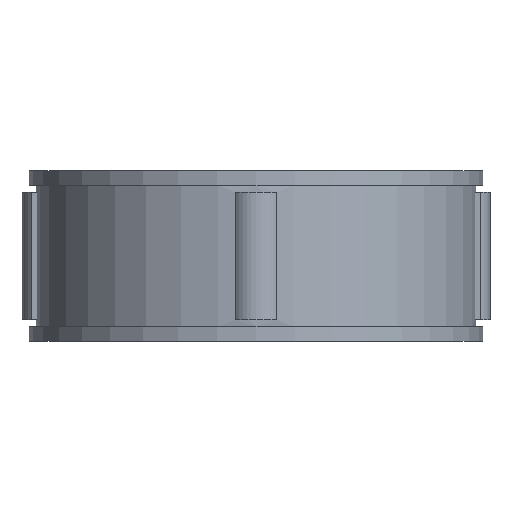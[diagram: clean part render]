
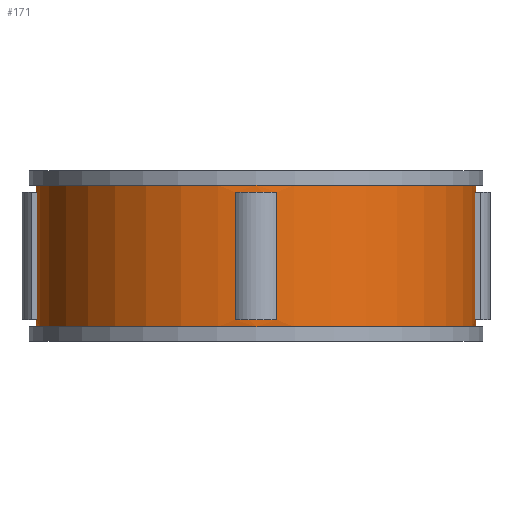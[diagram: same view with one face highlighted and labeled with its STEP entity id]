
A CAD part, front view. The second image highlights one B-rep face of the part: STEP entity #171.
In plain terms, the highlighted cylindrical face has radius 15.5 mm (diameter 31 mm), a full revolution.
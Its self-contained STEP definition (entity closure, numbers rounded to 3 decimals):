
#171=ADVANCED_FACE('',(#359,#360,#361,#362,#363,#364),#219,.T.);
#219=CYLINDRICAL_SURFACE('',#882,15.5);
#231=LINE('',#1207,#295);
#232=LINE('',#1212,#296);
#233=LINE('',#1215,#297);
#234=LINE('',#1220,#298);
#235=LINE('',#1223,#299);
#236=LINE('',#1228,#300);
#237=LINE('',#1234,#301);
#238=LINE('',#1238,#302);
#295=VECTOR('',#966,1.);
#296=VECTOR('',#969,1.);
#297=VECTOR('',#972,1.);
#298=VECTOR('',#975,1.);
#299=VECTOR('',#978,1.);
#300=VECTOR('',#981,1.);
#301=VECTOR('',#986,1.);
#302=VECTOR('',#989,1.);
#359=FACE_BOUND('',#383,.T.);
#360=FACE_BOUND('',#384,.T.);
#361=FACE_BOUND('',#385,.T.);
#362=FACE_BOUND('',#386,.T.);
#363=FACE_BOUND('',#387,.T.);
#364=FACE_BOUND('',#388,.T.);
#383=EDGE_LOOP('',(#447));
#384=EDGE_LOOP('',(#448));
#385=EDGE_LOOP('',(#449,#450,#451,#452));
#386=EDGE_LOOP('',(#453,#454,#455,#456));
#387=EDGE_LOOP('',(#457,#458,#459,#460));
#388=EDGE_LOOP('',(#461,#462,#463,#464));
#447=ORIENTED_EDGE('',*,*,#727,.F.);
#448=ORIENTED_EDGE('',*,*,#728,.T.);
#449=ORIENTED_EDGE('',*,*,#729,.F.);
#450=ORIENTED_EDGE('',*,*,#730,.T.);
#451=ORIENTED_EDGE('',*,*,#731,.F.);
#452=ORIENTED_EDGE('',*,*,#732,.F.);
#453=ORIENTED_EDGE('',*,*,#733,.F.);
#454=ORIENTED_EDGE('',*,*,#734,.T.);
#455=ORIENTED_EDGE('',*,*,#735,.F.);
#456=ORIENTED_EDGE('',*,*,#736,.F.);
#457=ORIENTED_EDGE('',*,*,#737,.F.);
#458=ORIENTED_EDGE('',*,*,#738,.T.);
#459=ORIENTED_EDGE('',*,*,#739,.F.);
#460=ORIENTED_EDGE('',*,*,#740,.F.);
#461=ORIENTED_EDGE('',*,*,#741,.F.);
#462=ORIENTED_EDGE('',*,*,#742,.T.);
#463=ORIENTED_EDGE('',*,*,#743,.T.);
#464=ORIENTED_EDGE('',*,*,#744,.T.);
#655=VERTEX_POINT('',#1204);
#656=VERTEX_POINT('',#1206);
#657=VERTEX_POINT('',#1208);
#658=VERTEX_POINT('',#1209);
#659=VERTEX_POINT('',#1211);
#660=VERTEX_POINT('',#1213);
#661=VERTEX_POINT('',#1216);
#662=VERTEX_POINT('',#1217);
#663=VERTEX_POINT('',#1219);
#664=VERTEX_POINT('',#1221);
#665=VERTEX_POINT('',#1224);
#666=VERTEX_POINT('',#1225);
#667=VERTEX_POINT('',#1227);
#668=VERTEX_POINT('',#1229);
#669=VERTEX_POINT('',#1232);
#670=VERTEX_POINT('',#1233);
#671=VERTEX_POINT('',#1235);
#672=VERTEX_POINT('',#1237);
#727=EDGE_CURVE('',#655,#655,#831,.T.);
#728=EDGE_CURVE('',#656,#656,#832,.T.);
#729=EDGE_CURVE('',#657,#658,#231,.T.);
#730=EDGE_CURVE('',#657,#659,#833,.T.);
#731=EDGE_CURVE('',#660,#659,#232,.T.);
#732=EDGE_CURVE('',#658,#660,#834,.T.);
#733=EDGE_CURVE('',#661,#662,#233,.T.);
#734=EDGE_CURVE('',#661,#663,#835,.T.);
#735=EDGE_CURVE('',#664,#663,#234,.T.);
#736=EDGE_CURVE('',#662,#664,#836,.T.);
#737=EDGE_CURVE('',#665,#666,#235,.T.);
#738=EDGE_CURVE('',#665,#667,#837,.T.);
#739=EDGE_CURVE('',#668,#667,#236,.T.);
#740=EDGE_CURVE('',#666,#668,#838,.T.);
#741=EDGE_CURVE('',#669,#670,#839,.T.);
#742=EDGE_CURVE('',#669,#671,#237,.T.);
#743=EDGE_CURVE('',#671,#672,#840,.T.);
#744=EDGE_CURVE('',#672,#670,#238,.T.);
#831=CIRCLE('',#872,15.5);
#832=CIRCLE('',#873,15.5);
#833=CIRCLE('',#874,15.5);
#834=CIRCLE('',#875,15.5);
#835=CIRCLE('',#876,15.5);
#836=CIRCLE('',#877,15.5);
#837=CIRCLE('',#878,15.5);
#838=CIRCLE('',#879,15.5);
#839=CIRCLE('',#880,15.5);
#840=CIRCLE('',#881,15.5);
#872=AXIS2_PLACEMENT_3D('',#1203,#962,#963);
#873=AXIS2_PLACEMENT_3D('',#1205,#964,#965);
#874=AXIS2_PLACEMENT_3D('',#1210,#967,#968);
#875=AXIS2_PLACEMENT_3D('',#1214,#970,#971);
#876=AXIS2_PLACEMENT_3D('',#1218,#973,#974);
#877=AXIS2_PLACEMENT_3D('',#1222,#976,#977);
#878=AXIS2_PLACEMENT_3D('',#1226,#979,#980);
#879=AXIS2_PLACEMENT_3D('',#1230,#982,#983);
#880=AXIS2_PLACEMENT_3D('',#1231,#984,#985);
#881=AXIS2_PLACEMENT_3D('',#1236,#987,#988);
#882=AXIS2_PLACEMENT_3D('',#1239,#990,#991);
#962=DIRECTION('',(0.,0.,1.));
#963=DIRECTION('',(1.,0.,0.));
#964=DIRECTION('',(0.,0.,1.));
#965=DIRECTION('',(1.,0.,0.));
#966=DIRECTION('',(0.,0.,-1.));
#967=DIRECTION('',(0.,0.,1.));
#968=DIRECTION('',(1.,0.,0.));
#969=DIRECTION('',(0.,0.,1.));
#970=DIRECTION('',(0.,0.,1.));
#971=DIRECTION('',(1.,0.,0.));
#972=DIRECTION('',(0.,0.,-1.));
#973=DIRECTION('',(0.,0.,1.));
#974=DIRECTION('',(1.,0.,0.));
#975=DIRECTION('',(0.,0.,1.));
#976=DIRECTION('',(0.,0.,1.));
#977=DIRECTION('',(1.,0.,0.));
#978=DIRECTION('',(0.,0.,-1.));
#979=DIRECTION('',(0.,0.,1.));
#980=DIRECTION('',(1.,0.,0.));
#981=DIRECTION('',(0.,0.,1.));
#982=DIRECTION('',(0.,0.,1.));
#983=DIRECTION('',(1.,0.,0.));
#984=DIRECTION('',(0.,0.,-1.));
#985=DIRECTION('',(-1.,0.,0.));
#986=DIRECTION('',(0.,0.,-1.));
#987=DIRECTION('',(0.,0.,-1.));
#988=DIRECTION('',(-1.,0.,0.));
#989=DIRECTION('',(0.,0.,1.));
#990=DIRECTION('',(0.,0.,-1.));
#991=DIRECTION('',(-1.,0.,0.));
#1203=CARTESIAN_POINT('',(0.,0.,11.));
#1204=CARTESIAN_POINT('',(15.5,0.,11.));
#1205=CARTESIAN_POINT('',(0.,0.,1.));
#1206=CARTESIAN_POINT('',(15.5,0.,1.));
#1207=CARTESIAN_POINT('',(15.43,-1.471,12.));
#1208=CARTESIAN_POINT('',(15.43,-1.471,10.5));
#1209=CARTESIAN_POINT('',(15.43,-1.471,1.5));
#1210=CARTESIAN_POINT('',(0.,0.,10.5));
#1211=CARTESIAN_POINT('',(15.43,1.471,10.5));
#1212=CARTESIAN_POINT('',(15.43,1.471,12.));
#1213=CARTESIAN_POINT('',(15.43,1.471,1.5));
#1214=CARTESIAN_POINT('',(0.,0.,1.5));
#1215=CARTESIAN_POINT('',(1.471,15.43,12.));
#1216=CARTESIAN_POINT('',(1.471,15.43,10.5));
#1217=CARTESIAN_POINT('',(1.471,15.43,1.5));
#1218=CARTESIAN_POINT('',(0.,0.,10.5));
#1219=CARTESIAN_POINT('',(-1.471,15.43,10.5));
#1220=CARTESIAN_POINT('',(-1.471,15.43,12.));
#1221=CARTESIAN_POINT('',(-1.471,15.43,1.5));
#1222=CARTESIAN_POINT('',(0.,0.,1.5));
#1223=CARTESIAN_POINT('',(-15.43,1.471,12.));
#1224=CARTESIAN_POINT('',(-15.43,1.471,10.5));
#1225=CARTESIAN_POINT('',(-15.43,1.471,1.5));
#1226=CARTESIAN_POINT('',(0.,0.,10.5));
#1227=CARTESIAN_POINT('',(-15.43,-1.471,10.5));
#1228=CARTESIAN_POINT('',(-15.43,-1.471,12.));
#1229=CARTESIAN_POINT('',(-15.43,-1.471,1.5));
#1230=CARTESIAN_POINT('',(0.,0.,1.5));
#1231=CARTESIAN_POINT('',(0.,0.,10.5));
#1232=CARTESIAN_POINT('',(1.471,-15.43,10.5));
#1233=CARTESIAN_POINT('',(-1.471,-15.43,10.5));
#1234=CARTESIAN_POINT('',(1.471,-15.43,12.));
#1235=CARTESIAN_POINT('',(1.471,-15.43,1.5));
#1236=CARTESIAN_POINT('',(0.,0.,1.5));
#1237=CARTESIAN_POINT('',(-1.471,-15.43,1.5));
#1238=CARTESIAN_POINT('',(-1.471,-15.43,12.));
#1239=CARTESIAN_POINT('',(0.,0.,12.));
